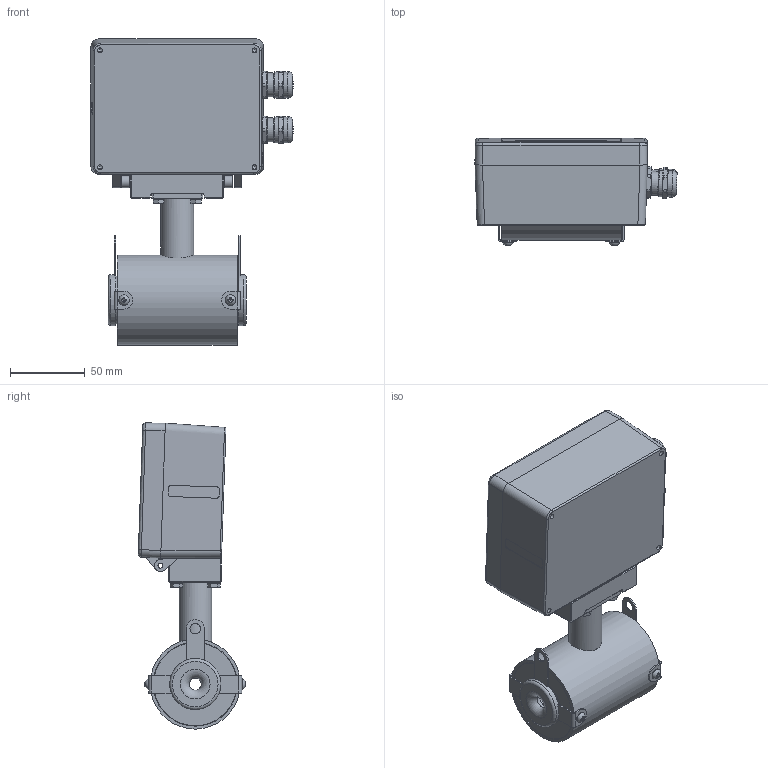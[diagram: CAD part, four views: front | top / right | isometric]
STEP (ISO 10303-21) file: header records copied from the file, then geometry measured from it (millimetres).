
FILE_DESCRIPTION(('STEP AP203'), '1');
FILE_NAME('Âçëåò ÝÌ ÏÐÎÔÈ DN10 Ñýíäâè÷', '', ('UNSPECIFIED'), ('UNSPECIFIED'), 'C3D Converter', 'C3D Toolkit', '');
FILE_SCHEMA(('CONFIG_CONTROL_DESIGN'));
Length unit declared in the file: millimetre
Products named in the file (1): ШКСД.407212.004-002
Bounding box: 134.72 x 71.62 x 204.17 mm (x, y, z)
Surface area: 157831.8 mm2
Topology: 2 solids, 11 shells, 942 faces, 2253 edges, 1410 vertices
Faces by surface type: plane 466, cylinder 275, cone 91, bspline 68, torus 38, sphere 4
Full cylindrical faces by diameter (mm): 2 x2, 3.242 x18, 3.422 x2, 4 x8, 4.134 x1, 4.5 x10, 4.917 x2, 5 x4, 6 x4, 6.2 x2, 7 x6, 7.5 x4, 8.7 x2, 10.7 x1, 12 x4, 14.7 x2, 15 x4, 16 x10, 16.3 x2, 17.5 x4, 18 x2, 19 x1, 20.2 x1, 21 x1, 22 x2, 26 x2, 32 x2, 34 x2, 54 x2, 55 x1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
Entity records: 51176 total; most frequent: CARTESIAN_POINT 23031, DIRECTION 4103, ORIENTED_EDGE 4034, EDGE_CURVE 2023, AXIS2_PLACEMENT_3D 1573, VERTEX_POINT 1391, EDGE_LOOP 1276, FACE_BOUND 957
